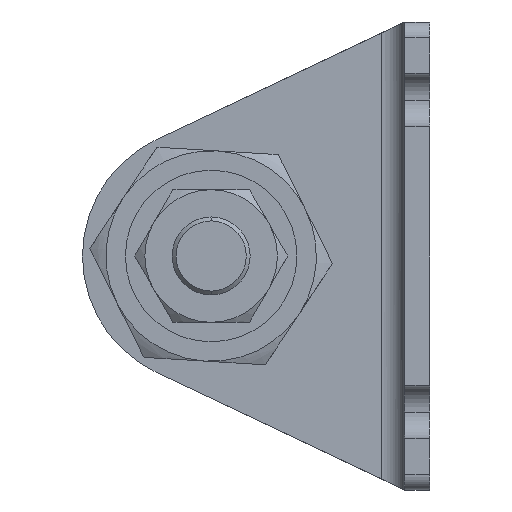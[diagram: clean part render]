
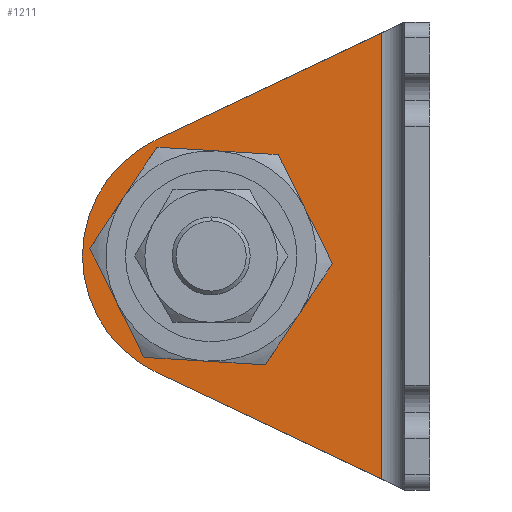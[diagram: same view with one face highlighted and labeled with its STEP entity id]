
A CAD part, left-side view. The second image highlights one B-rep face of the part: STEP entity #1211.
In plain terms, the highlighted planar face has unit normal (-1, 0, 0) as drawn and (1, 0, 0) by its records, which use the part's own axes.
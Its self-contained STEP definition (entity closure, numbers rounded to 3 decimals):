
#110 = VECTOR ( 'NONE', #1555, 1000. ) ;
#210 = DIRECTION ( 'NONE',  ( 0., 1., 0. ) ) ;
#350 = CIRCLE ( 'NONE', #3420, 11.5 ) ;
#433 = EDGE_LOOP ( 'NONE', ( #1548, #2959 ) ) ;
#501 = PLANE ( 'NONE',  #2787 ) ;
#571 = CARTESIAN_POINT ( 'NONE',  ( 3.2, 35.062, -15.087 ) ) ;
#619 = LINE ( 'NONE', #3628, #110 ) ;
#623 = CARTESIAN_POINT ( 'NONE',  ( 3.2, 28., -30. ) ) ;
#624 = FACE_OUTER_BOUND ( 'NONE', #3914, .T. ) ;
#822 = DIRECTION ( 'NONE',  ( 1., 0., 0. ) ) ;
#940 = EDGE_CURVE ( 'NONE', #2608, #1569, #1465, .T. ) ;
#954 = CARTESIAN_POINT ( 'NONE',  ( 3.2, 16.5, -30. ) ) ;
#1044 = DIRECTION ( 'NONE',  ( 1., 0., 0. ) ) ;
#1126 = DIRECTION ( 'NONE',  ( 0., 0.904, -0.428 ) ) ;
#1178 = VERTEX_POINT ( 'NONE', #3933 ) ;
#1201 = DIRECTION ( 'NONE',  ( 1., 0., 0. ) ) ;
#1211 = ADVANCED_FACE ( 'NONE', ( #624, #2741 ), #501, .T. ) ;
#1223 = ORIENTED_EDGE ( 'NONE', *, *, #1434, .T. ) ;
#1364 = DIRECTION ( 'NONE',  ( 0., 1., 0. ) ) ;
#1377 = CIRCLE ( 'NONE', #1828, 11.5 ) ;
#1391 = VERTEX_POINT ( 'NONE', #1670 ) ;
#1405 = ORIENTED_EDGE ( 'NONE', *, *, #940, .T. ) ;
#1434 = EDGE_CURVE ( 'NONE', #1636, #1178, #619, .T. ) ;
#1465 = CIRCLE ( 'NONE', #3413, 16.5 ) ;
#1548 = ORIENTED_EDGE ( 'NONE', *, *, #3015, .F. ) ;
#1555 = DIRECTION ( 'NONE',  ( 0., 0.904, 0.428 ) ) ;
#1569 = VERTEX_POINT ( 'NONE', #571 ) ;
#1636 = VERTEX_POINT ( 'NONE', #3251 ) ;
#1670 = CARTESIAN_POINT ( 'NONE',  ( 3.2, 6.2, -1.421 ) ) ;
#1820 = AXIS2_PLACEMENT_3D ( 'NONE', #2889, #1987, #1364 ) ;
#1828 = AXIS2_PLACEMENT_3D ( 'NONE', #623, #822, #4359 ) ;
#1919 = DIRECTION ( 'NONE',  ( 1., 0., 0. ) ) ;
#1952 = CARTESIAN_POINT ( 'NONE',  ( 3.2, 6.2, -60. ) ) ;
#1987 = DIRECTION ( 'NONE',  ( 1., 0., 0. ) ) ;
#1988 = CARTESIAN_POINT ( 'NONE',  ( 3.2, 28., -30. ) ) ;
#1990 = ORIENTED_EDGE ( 'NONE', *, *, #4258, .T. ) ;
#2186 = CARTESIAN_POINT ( 'NONE',  ( 3.2, 28., -30. ) ) ;
#2469 = VERTEX_POINT ( 'NONE', #954 ) ;
#2518 = ORIENTED_EDGE ( 'NONE', *, *, #3039, .F. ) ;
#2520 = DIRECTION ( 'NONE',  ( 0., 0., -1. ) ) ;
#2537 = DIRECTION ( 'NONE',  ( 0., 1., 0. ) ) ;
#2608 = VERTEX_POINT ( 'NONE', #3928 ) ;
#2741 = FACE_BOUND ( 'NONE', #433, .T. ) ;
#2787 = AXIS2_PLACEMENT_3D ( 'NONE', #4364, #1044, #2537 ) ;
#2889 = CARTESIAN_POINT ( 'NONE',  ( 3.2, 28., -30. ) ) ;
#2959 = ORIENTED_EDGE ( 'NONE', *, *, #4280, .F. ) ;
#3009 = LINE ( 'NONE', #1952, #4157 ) ;
#3015 = EDGE_CURVE ( 'NONE', #3799, #2469, #1377, .T. ) ;
#3039 = EDGE_CURVE ( 'NONE', #1391, #1569, #4099, .T. ) ;
#3248 = VECTOR ( 'NONE', #1126, 1000. ) ;
#3251 = CARTESIAN_POINT ( 'NONE',  ( 3.2, 6.2, -58.579 ) ) ;
#3413 = AXIS2_PLACEMENT_3D ( 'NONE', #2186, #1201, #210 ) ;
#3420 = AXIS2_PLACEMENT_3D ( 'NONE', #1988, #1919, #3458 ) ;
#3458 = DIRECTION ( 'NONE',  ( 0., 1., 0. ) ) ;
#3575 = EDGE_CURVE ( 'NONE', #1391, #1636, #3009, .T. ) ;
#3628 = CARTESIAN_POINT ( 'NONE',  ( 3.2, 3.2, -60. ) ) ;
#3799 = VERTEX_POINT ( 'NONE', #4052 ) ;
#3914 = EDGE_LOOP ( 'NONE', ( #2518, #4274, #1223, #1990, #1405 ) ) ;
#3928 = CARTESIAN_POINT ( 'NONE',  ( 3.2, 44.5, -30. ) ) ;
#3933 = CARTESIAN_POINT ( 'NONE',  ( 3.2, 35.062, -44.913 ) ) ;
#4020 = CIRCLE ( 'NONE', #1820, 16.5 ) ;
#4052 = CARTESIAN_POINT ( 'NONE',  ( 3.2, 39.5, -30. ) ) ;
#4097 = CARTESIAN_POINT ( 'NONE',  ( 3.2, 26.408, -10.99 ) ) ;
#4099 = LINE ( 'NONE', #4097, #3248 ) ;
#4157 = VECTOR ( 'NONE', #2520, 1000. ) ;
#4258 = EDGE_CURVE ( 'NONE', #1178, #2608, #4020, .T. ) ;
#4274 = ORIENTED_EDGE ( 'NONE', *, *, #3575, .T. ) ;
#4280 = EDGE_CURVE ( 'NONE', #2469, #3799, #350, .T. ) ;
#4359 = DIRECTION ( 'NONE',  ( 0., 1., 0. ) ) ;
#4364 = CARTESIAN_POINT ( 'NONE',  ( 3.2, 3.2, -60. ) ) ;
